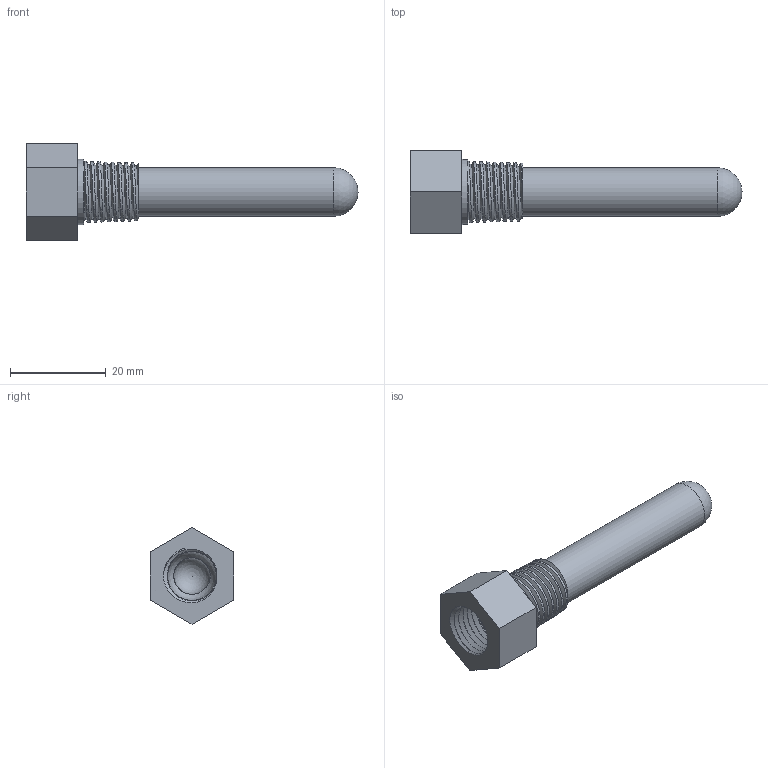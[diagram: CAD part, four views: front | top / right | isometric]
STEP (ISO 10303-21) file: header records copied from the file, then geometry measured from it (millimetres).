
FILE_DESCRIPTION(/* description */ (''),/* implementation_level */ '2;1');
FILE_NAME(/* name */ 'R:\Temp\J. Narvaez\IAN DRAWINGS\002 - Sensors\005 - MCS-WELL\14-002-1_4-B.stp',/* time_stamp */ '2022-11-14T09:48:25-05:00',/* author */ ('mjeter'),/* organization */ ('unknown'),/* preprocessor_version */ 'ST-DEVELOPER v19',/* originating_system */ 'Autodesk Inventor 2023',/* authorisation */ '');
FILE_SCHEMA (('AUTOMOTIVE_DESIGN { 1 0 10303 214 3 1 1 }'));
Length unit declared in the file: inch
Products named in the file (1): 14-002-1_4-B
Bounding box: 69.34 x 17.46 x 20.16 mm (x, y, z)
Volume: 4445.2 mm3; surface area: 5070 mm2
Topology: 1 solids, 1 shells, 32 faces, 85 edges, 57 vertices
Faces by surface type: plane 12, cone 10, bspline 4, cylinder 4, sphere 2
Full cylindrical faces by diameter (mm): 7.62 x1, 10.16 x1, 11.176 x1, 13.589 x1
Entity records: 5104 total; most frequent: CARTESIAN_POINT 4315, ORIENTED_EDGE 166, DIRECTION 127, EDGE_CURVE 83, VERTEX_POINT 57, AXIS2_PLACEMENT_3D 48, EDGE_LOOP 36, B_SPLINE_CURVE_WITH_KNOTS 33
